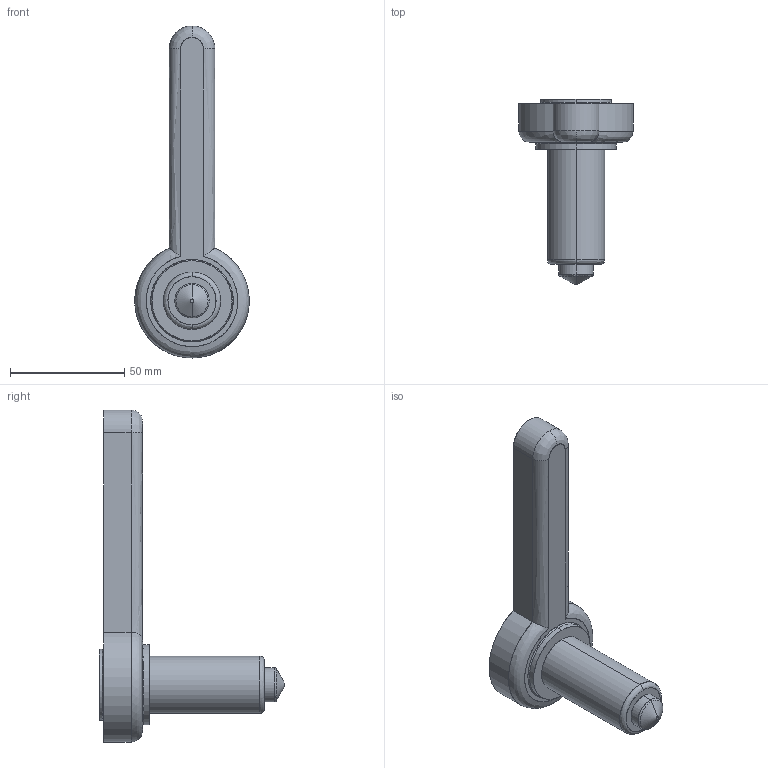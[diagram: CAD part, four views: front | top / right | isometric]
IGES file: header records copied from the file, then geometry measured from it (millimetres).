
Start section: SolidWorks IGES file using analytic representation for surfaces
Global section: file name: C:\Users\luca.EMPAD\Desktop\TEM\Sede UGDL2601-S-A C-59 L-77 Ød=1.5.IGS; native system: SolidWorks 2012; preprocessor: SolidWorks 2012; author: luca; date: 120330.145309; units: millimetre
Bounding box: 49.98 x 81.2 x 145 mm (x, y, z)
Surface area: 17333.1 mm2 (no closed solid volume)
Topology: 0 solids, 0 shells, 36 faces, 682 edges, 682 vertices
Faces by surface type: revolution 21, bspline 15
